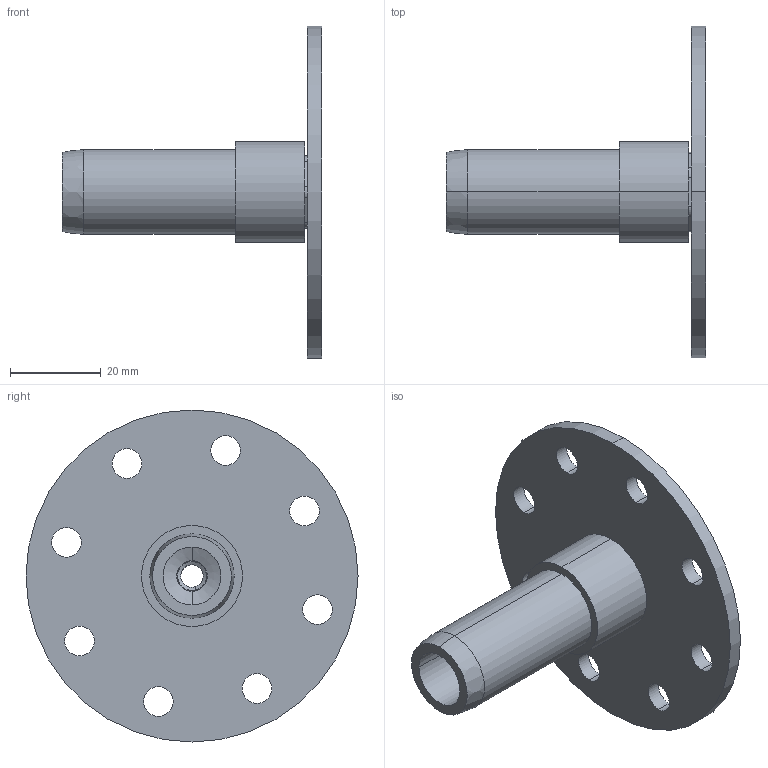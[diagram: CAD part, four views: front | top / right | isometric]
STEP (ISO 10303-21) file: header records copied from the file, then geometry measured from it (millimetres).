
FILE_DESCRIPTION (( 'STEP AP203' ), '1' );
FILE_NAME ('FDPCK-MC.75-CFHEX-END-KIT.step', '2019-09-11T18:30:44', ( 'ydmin' ), ( '' ), 'SwSTEP 2.0', 'SolidWorks 2017', '' );
FILE_SCHEMA (( 'CONFIG_CONTROL_DESIGN' ));
Length unit declared in the file: inch
Products named in the file (1): FDPCK-MC.75-CFHEX-END-KIT
Bounding box: 57.15 x 73.03 x 73.03 mm (x, y, z)
Volume: 23133.9 mm3; surface area: 15280 mm2
Topology: 3 solids, 3 shells, 70 faces, 182 edges, 120 vertices
Faces by surface type: cylinder 38, plane 20, bspline 10, cone 2
Entity records: 3801 total; most frequent: CARTESIAN_POINT 1947, DIRECTION 378, ORIENTED_EDGE 364, EDGE_CURVE 182, AXIS2_PLACEMENT_3D 143, VERTEX_POINT 120, VECTOR 92, EDGE_LOOP 92
